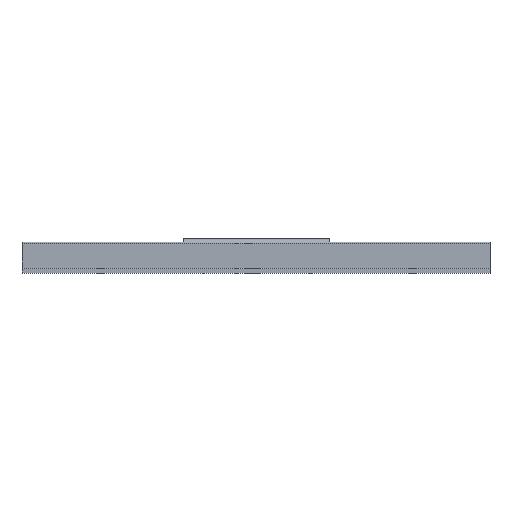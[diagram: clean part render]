
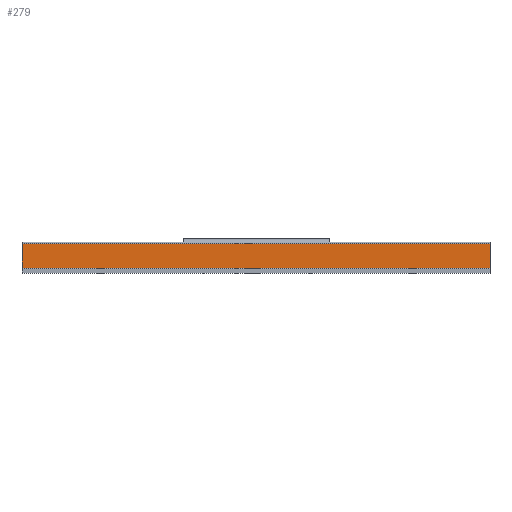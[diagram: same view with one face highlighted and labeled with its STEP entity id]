
A CAD part, front view. The second image highlights one B-rep face of the part: STEP entity #279.
In plain terms, the highlighted planar face has unit normal (0, -1, 0).
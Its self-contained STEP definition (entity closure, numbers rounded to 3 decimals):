
#221=CARTESIAN_POINT('',(300.0,9.5,3.2));
#222=VERTEX_POINT('',#221);
#230=CARTESIAN_POINT('',(0.0,9.5,3.2));
#231=VERTEX_POINT('',#230);
#232=CARTESIAN_POINT('',(0.0,9.5,3.2));
#233=DIRECTION('',(1.0,0.0,0.0));
#234=VECTOR('',#233,300.0);
#235=LINE('',#232,#234);
#236=EDGE_CURVE('',#231,#222,#235,.T.);
#249=CARTESIAN_POINT('',(0.0,9.5,3.2));
#250=DIRECTION('',(0.0,-1.0,0.0));
#251=DIRECTION('',(0.0,0.0,-1.0));
#252=AXIS2_PLACEMENT_3D('',#249,#250,#251);
#253=PLANE('',#252);
#254=CARTESIAN_POINT('',(300.0,9.5,19.));
#255=VERTEX_POINT('',#254);
#256=CARTESIAN_POINT('',(300.0,9.5,3.2));
#257=DIRECTION('',(0.0,0.0,1.0));
#258=VECTOR('',#257,15.8);
#259=LINE('',#256,#258);
#260=EDGE_CURVE('',#222,#255,#259,.T.);
#261=ORIENTED_EDGE('',*,*,#260,.T.);
#262=CARTESIAN_POINT('',(0.0,9.5,19.));
#263=VERTEX_POINT('',#262);
#264=CARTESIAN_POINT('',(0.0,9.5,19.));
#265=DIRECTION('',(1.0,0.0,0.0));
#266=VECTOR('',#265,300.0);
#267=LINE('',#264,#266);
#268=EDGE_CURVE('',#263,#255,#267,.T.);
#269=ORIENTED_EDGE('',*,*,#268,.F.);
#270=CARTESIAN_POINT('',(0.0,9.5,19.));
#271=DIRECTION('',(0.0,0.0,-1.0));
#272=VECTOR('',#271,15.8);
#273=LINE('',#270,#272);
#274=EDGE_CURVE('',#263,#231,#273,.T.);
#275=ORIENTED_EDGE('',*,*,#274,.T.);
#276=ORIENTED_EDGE('',*,*,#236,.T.);
#277=EDGE_LOOP('',(#261,#269,#275,#276));
#278=FACE_OUTER_BOUND('',#277,.T.);
#279=ADVANCED_FACE('',(#278),#253,.T.);
